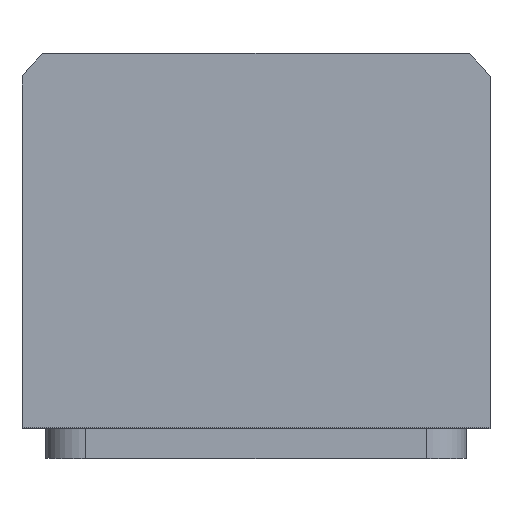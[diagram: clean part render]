
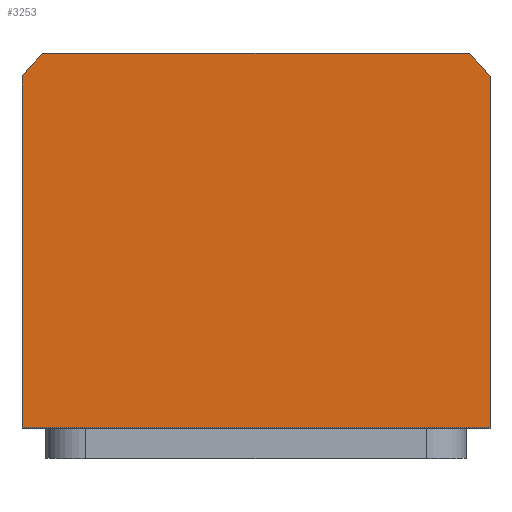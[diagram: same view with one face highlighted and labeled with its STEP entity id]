
A CAD part, top view. The second image highlights one B-rep face of the part: STEP entity #3253.
In plain terms, the highlighted planar face has unit normal (0, 0, 1).
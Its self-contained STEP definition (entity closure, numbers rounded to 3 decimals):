
#2858=FACE_OUTER_BOUND('',#4170,.T.);
#3253=ADVANCED_FACE('',(#2858),#3675,.T.);
#3675=PLANE('',#11185);
#4170=EDGE_LOOP('',(#6581,#6582,#6583,#6584,#6585,#6586));
#4657=LINE('',#13382,#5481);
#4690=LINE('',#14034,#5514);
#4710=LINE('',#14092,#5534);
#4719=LINE('',#14118,#5543);
#5481=VECTOR('',#11570,1.);
#5514=VECTOR('',#11707,1.);
#5534=VECTOR('',#11753,1.);
#5543=VECTOR('',#11776,1.);
#6581=ORIENTED_EDGE('',*,*,#9875,.T.);
#6582=ORIENTED_EDGE('',*,*,#9903,.T.);
#6583=ORIENTED_EDGE('',*,*,#9906,.T.);
#6584=ORIENTED_EDGE('',*,*,#9917,.T.);
#6585=ORIENTED_EDGE('',*,*,#9923,.T.);
#6586=ORIENTED_EDGE('',*,*,#9770,.T.);
#8884=VERTEX_POINT('',#13381);
#8885=VERTEX_POINT('',#13383);
#8980=VERTEX_POINT('',#14033);
#9001=VERTEX_POINT('',#14091);
#9003=VERTEX_POINT('',#14097);
#9011=VERTEX_POINT('',#14117);
#9770=EDGE_CURVE('',#8885,#8884,#4657,.T.);
#9875=EDGE_CURVE('',#8884,#8980,#4690,.T.);
#9903=EDGE_CURVE('',#8980,#9001,#4710,.T.);
#9906=EDGE_CURVE('',#9001,#9003,#11048,.T.);
#9917=EDGE_CURVE('',#9003,#9011,#4719,.T.);
#9923=EDGE_CURVE('',#9011,#8885,#11054,.T.);
#11048=CIRCLE('',#11175,44.5);
#11054=CIRCLE('',#11183,44.5);
#11175=AXIS2_PLACEMENT_3D('',#14098,#11759,#11760);
#11183=AXIS2_PLACEMENT_3D('',#14127,#11786,#11787);
#11185=AXIS2_PLACEMENT_3D('',#14129,#11790,#11791);
#11570=DIRECTION('',(0.,-1.,0.));
#11707=DIRECTION('',(1.,0.,0.));
#11753=DIRECTION('',(0.,1.,0.));
#11759=DIRECTION('',(0.,0.,1.));
#11760=DIRECTION('',(1.,0.,0.));
#11776=DIRECTION('',(-1.,0.,0.));
#11786=DIRECTION('',(0.,0.,1.));
#11787=DIRECTION('',(1.,0.,0.));
#11790=DIRECTION('',(0.,0.,1.));
#11791=DIRECTION('',(-1.,0.,0.));
#13381=CARTESIAN_POINT('',(-35.,-25.,39.5));
#13382=CARTESIAN_POINT('',(-35.,-25.,39.5));
#13383=CARTESIAN_POINT('',(-35.,27.482,39.5));
#14033=CARTESIAN_POINT('',(35.,-25.,39.5));
#14034=CARTESIAN_POINT('',(35.,-25.,39.5));
#14091=CARTESIAN_POINT('',(35.,27.482,39.5));
#14092=CARTESIAN_POINT('',(35.,27.482,39.5));
#14097=CARTESIAN_POINT('',(31.926,31.,39.5));
#14098=CARTESIAN_POINT('',(0.,0.,39.5));
#14117=CARTESIAN_POINT('',(-31.926,31.,39.5));
#14118=CARTESIAN_POINT('',(-31.926,31.,39.5));
#14127=CARTESIAN_POINT('',(0.,0.,39.5));
#14129=CARTESIAN_POINT('',(0.,0.,39.5));
